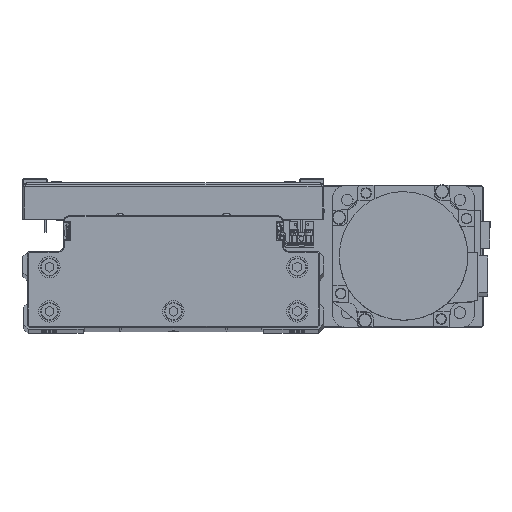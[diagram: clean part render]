
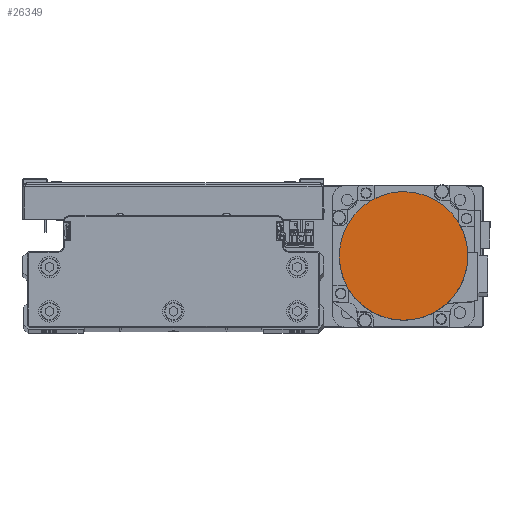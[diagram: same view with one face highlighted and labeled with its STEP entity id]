
A CAD part, top view. The second image highlights one B-rep face of the part: STEP entity #26349.
In plain terms, the highlighted planar face has unit normal (0, 0, 1) as drawn and (0, 0, -1) by its records, which use the part's own axes.
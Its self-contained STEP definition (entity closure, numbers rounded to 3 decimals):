
#2129 = CARTESIAN_POINT ( 'NONE',  ( -36.3, 0., -122.2 ) ) ;
#2351 = CARTESIAN_POINT ( 'NONE',  ( -11.696, -34.446, -122.2 ) ) ;
#2776 = CARTESIAN_POINT ( 'NONE',  ( -16.086, 32.628, -122.2 ) ) ;
#5806 = CARTESIAN_POINT ( 'NONE',  ( -22.143, -28.862, -122.2 ) ) ;
#6234 = CARTESIAN_POINT ( 'NONE',  ( -4.752, 36.066, -122.2 ) ) ;
#6460 = CARTESIAN_POINT ( 'NONE',  ( -36.066, 4.752, -122.2 ) ) ;
#6990 = CARTESIAN_POINT ( 'NONE',  ( 0., 36.3, -122.2 ) ) ;
#8786 = VERTEX_POINT ( 'NONE', #9946 ) ;
#9268 = CARTESIAN_POINT ( 'NONE',  ( -28.862, -22.143, -122.2 ) ) ;
#9916 = CARTESIAN_POINT ( 'NONE',  ( -32.628, 16.086, -122.2 ) ) ;
#9946 = CARTESIAN_POINT ( 'NONE',  ( -36.3, 0., -122.2 ) ) ;
#10516 = EDGE_CURVE ( 'NONE', #18358, #33051, #40272, .T. ) ;
#10815 = DIRECTION ( 'NONE',  ( 0., 0., 1. ) ) ;
#11227 = B_SPLINE_CURVE_WITH_KNOTS ( 'NONE', 3,
 ( #2129, #16167, #30177, #44180, #12717, #26728, #40742, #9268, #23298, #37301, #5806, #19833, #33856, #2351, #16396, #30410, #44412, #12950 ),
 .UNSPECIFIED., .F., .F.,
 ( 4, 2, 2, 2, 2, 2, 2, 2, 4 ),
 ( 0., 0.125, 0.25, 0.375, 0.5, 0.625, 0.75, 0.875, 1. ),
 .UNSPECIFIED. ) ;
#11423 = DIRECTION ( 'NONE',  ( -1., 0., 0. ) ) ;
#11459 = CARTESIAN_POINT ( 'NONE',  ( 0., 0., -122.2 ) ) ;
#12717 = CARTESIAN_POINT ( 'NONE',  ( -34.446, -11.696, -122.2 ) ) ;
#12950 = CARTESIAN_POINT ( 'NONE',  ( 0., -36.3, -122.2 ) ) ;
#13361 = CARTESIAN_POINT ( 'NONE',  ( -27.348, 23.988, -122.2 ) ) ;
#14089 = EDGE_CURVE ( 'NONE', #8786, #18358, #11227, .T. ) ;
#15005 = EDGE_CURVE ( 'NONE', #33051, #29587, #19057, .T. ) ;
#15705 = EDGE_LOOP ( 'NONE', ( #40894, #39968, #43039, #33135 ) ) ;
#16167 = CARTESIAN_POINT ( 'NONE',  ( -36.3, -2.376, -122.2 ) ) ;
#16396 = CARTESIAN_POINT ( 'NONE',  ( -9.412, -35.139, -122.2 ) ) ;
#16815 = CARTESIAN_POINT ( 'NONE',  ( -18.192, 31.502, -122.2 ) ) ;
#17555 = EDGE_CURVE ( 'NONE', #29587, #8786, #26497, .T. ) ;
#18358 = VERTEX_POINT ( 'NONE', #23333 ) ;
#19057 = CIRCLE ( 'NONE', #24924, 36.3 ) ;
#19833 = CARTESIAN_POINT ( 'NONE',  ( -18.192, -31.502, -122.2 ) ) ;
#20253 = CARTESIAN_POINT ( 'NONE',  ( -9.412, 35.139, -122.2 ) ) ;
#20449 = AXIS2_PLACEMENT_3D ( 'NONE', #42289, #10815, #24826 ) ;
#20470 = CARTESIAN_POINT ( 'NONE',  ( -36.3, 2.376, -122.2 ) ) ;
#23298 = CARTESIAN_POINT ( 'NONE',  ( -27.348, -23.988, -122.2 ) ) ;
#23333 = CARTESIAN_POINT ( 'NONE',  ( 0., -36.3, -122.2 ) ) ;
#23715 = CARTESIAN_POINT ( 'NONE',  ( 0., 36.3, -122.2 ) ) ;
#23941 = CARTESIAN_POINT ( 'NONE',  ( -34.446, 11.696, -122.2 ) ) ;
#24826 = DIRECTION ( 'NONE',  ( -1., 0., 0. ) ) ;
#24924 = AXIS2_PLACEMENT_3D ( 'NONE', #28880, #42890, #11423 ) ;
#25472 = DIRECTION ( 'NONE',  ( 0., 0., 1. ) ) ;
#26349 = ADVANCED_FACE ( 'NONE', ( #28914 ), #42924, .F. ) ;
#26497 = B_SPLINE_CURVE_WITH_KNOTS ( 'NONE', 3,
 ( #23715, #37726, #6234, #20253, #34284, #2776, #16815, #30831, #44826, #13361, #27369, #41386, #9916, #23941, #37947, #6460, #20470, #34498 ),
 .UNSPECIFIED., .F., .F.,
 ( 4, 2, 2, 2, 2, 2, 2, 2, 4 ),
 ( 0., 0.125, 0.25, 0.375, 0.5, 0.625, 0.75, 0.875, 1. ),
 .UNSPECIFIED. ) ;
#26569 = AXIS2_PLACEMENT_3D ( 'NONE', #11459, #25472, #39482 ) ;
#26728 = CARTESIAN_POINT ( 'NONE',  ( -32.628, -16.086, -122.2 ) ) ;
#27369 = CARTESIAN_POINT ( 'NONE',  ( -28.862, 22.143, -122.2 ) ) ;
#28880 = CARTESIAN_POINT ( 'NONE',  ( 0., 0., -122.2 ) ) ;
#28914 = FACE_OUTER_BOUND ( 'NONE', #15705, .T. ) ;
#29587 = VERTEX_POINT ( 'NONE', #6990 ) ;
#30177 = CARTESIAN_POINT ( 'NONE',  ( -36.066, -4.752, -122.2 ) ) ;
#30410 = CARTESIAN_POINT ( 'NONE',  ( -4.752, -36.066, -122.2 ) ) ;
#30831 = CARTESIAN_POINT ( 'NONE',  ( -22.143, 28.862, -122.2 ) ) ;
#32229 = CARTESIAN_POINT ( 'NONE',  ( 36.3, 0., -122.2 ) ) ;
#33051 = VERTEX_POINT ( 'NONE', #32229 ) ;
#33135 = ORIENTED_EDGE ( 'NONE', *, *, #15005, .F. ) ;
#33856 = CARTESIAN_POINT ( 'NONE',  ( -16.086, -32.628, -122.2 ) ) ;
#34284 = CARTESIAN_POINT ( 'NONE',  ( -11.696, 34.446, -122.2 ) ) ;
#34498 = CARTESIAN_POINT ( 'NONE',  ( -36.3, 0., -122.2 ) ) ;
#37301 = CARTESIAN_POINT ( 'NONE',  ( -23.988, -27.348, -122.2 ) ) ;
#37726 = CARTESIAN_POINT ( 'NONE',  ( -2.376, 36.3, -122.2 ) ) ;
#37947 = CARTESIAN_POINT ( 'NONE',  ( -35.139, 9.412, -122.2 ) ) ;
#39482 = DIRECTION ( 'NONE',  ( 1., 0., 0. ) ) ;
#39968 = ORIENTED_EDGE ( 'NONE', *, *, #14089, .F. ) ;
#40272 = CIRCLE ( 'NONE', #20449, 36.3 ) ;
#40742 = CARTESIAN_POINT ( 'NONE',  ( -31.502, -18.192, -122.2 ) ) ;
#40894 = ORIENTED_EDGE ( 'NONE', *, *, #10516, .F. ) ;
#41386 = CARTESIAN_POINT ( 'NONE',  ( -31.502, 18.192, -122.2 ) ) ;
#42289 = CARTESIAN_POINT ( 'NONE',  ( 0., 0., -122.2 ) ) ;
#42890 = DIRECTION ( 'NONE',  ( 0., 0., 1. ) ) ;
#42924 = PLANE ( 'NONE',  #26569 ) ;
#43039 = ORIENTED_EDGE ( 'NONE', *, *, #17555, .F. ) ;
#44180 = CARTESIAN_POINT ( 'NONE',  ( -35.139, -9.412, -122.2 ) ) ;
#44412 = CARTESIAN_POINT ( 'NONE',  ( -2.376, -36.3, -122.2 ) ) ;
#44826 = CARTESIAN_POINT ( 'NONE',  ( -23.988, 27.348, -122.2 ) ) ;
